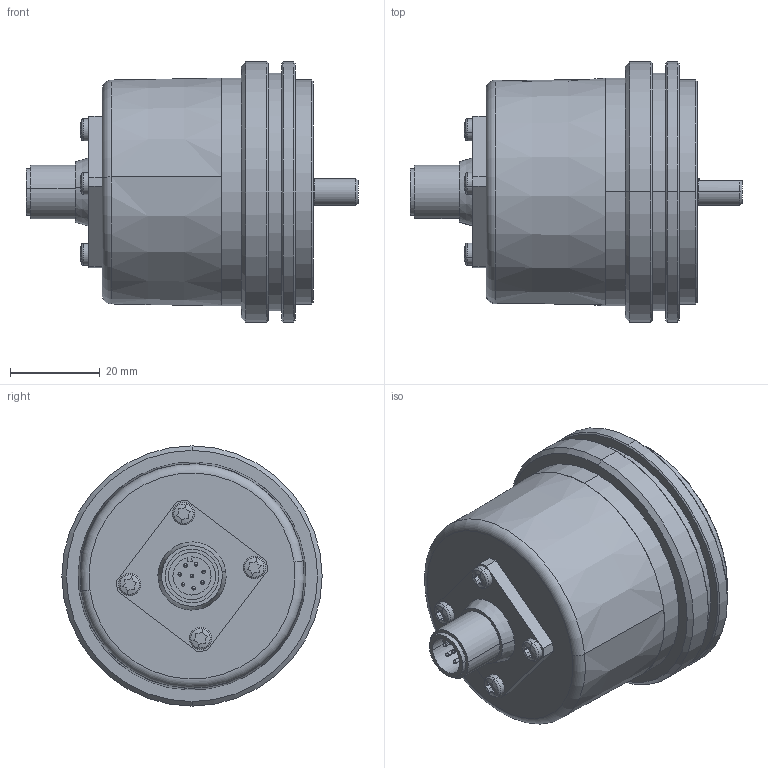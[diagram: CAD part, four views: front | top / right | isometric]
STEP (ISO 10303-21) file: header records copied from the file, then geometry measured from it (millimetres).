
FILE_DESCRIPTION (( 'STEP AP214' ), '1' );
FILE_NAME ('5000.B1X3.XXXX.STEP', '2009-01-14T08:35:27', ( 'admin' ), ( 'Fritz Kübler GmbH' ), 'SwSTEP 2.0', 'SolidWorks 2008', '' );
FILE_SCHEMA (( 'AUTOMOTIVE_DESIGN' ));
Length unit declared in the file: millimetre
Products named in the file (1): 5000.B1X3.XXXX
Bounding box: 74 x 58 x 58 mm (x, y, z)
Volume: 60230.2 mm3; surface area: 33057.9 mm2
Topology: 9 solids, 10 shells, 515 faces, 1230 edges, 740 vertices
Faces by surface type: cylinder 147, plane 143, cone 93, torus 69, sphere 51, bspline 12
Entity records: 21149 total; most frequent: CARTESIAN_POINT 3636, DIRECTION 2712, ORIENTED_EDGE 2264, AXIS2_PLACEMENT_3D 1148, EDGE_CURVE 1132, VERTEX_POINT 694, CIRCLE 644, EDGE_LOOP 608
